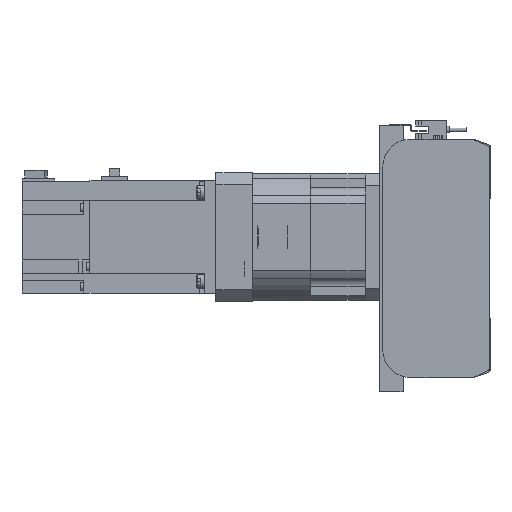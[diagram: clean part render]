
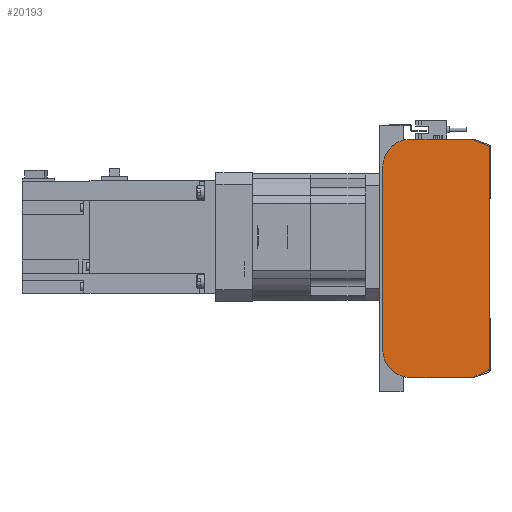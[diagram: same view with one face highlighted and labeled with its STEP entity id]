
A CAD part, left-side view. The second image highlights one B-rep face of the part: STEP entity #20193.
In plain terms, the highlighted planar face has unit normal (-1, 0, 0).
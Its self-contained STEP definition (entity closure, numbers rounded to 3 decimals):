
#1453=CIRCLE('',#22125,2.);
#1454=CIRCLE('',#22128,2.);
#1455=CIRCLE('',#22131,20.);
#1456=CIRCLE('',#22134,20.);
#5882=ORIENTED_EDGE('',*,*,#9455,.F.);
#5883=ORIENTED_EDGE('',*,*,#9533,.F.);
#5884=ORIENTED_EDGE('',*,*,#9531,.F.);
#5885=ORIENTED_EDGE('',*,*,#9529,.F.);
#5886=ORIENTED_EDGE('',*,*,#9272,.F.);
#5887=ORIENTED_EDGE('',*,*,#9528,.F.);
#5888=ORIENTED_EDGE('',*,*,#9526,.F.);
#5889=ORIENTED_EDGE('',*,*,#9524,.F.);
#5890=ORIENTED_EDGE('',*,*,#9522,.F.);
#5891=ORIENTED_EDGE('',*,*,#9520,.F.);
#9272=EDGE_CURVE('',#11454,#11455,#13192,.T.);
#9455=EDGE_CURVE('',#11526,#11527,#13306,.T.);
#9520=EDGE_CURVE('',#11527,#11568,#13351,.T.);
#9522=EDGE_CURVE('',#11568,#11569,#1453,.T.);
#9524=EDGE_CURVE('',#11569,#11570,#13354,.T.);
#9526=EDGE_CURVE('',#11570,#11571,#1454,.T.);
#9528=EDGE_CURVE('',#11571,#11454,#13357,.T.);
#9529=EDGE_CURVE('',#11455,#11572,#1455,.T.);
#9531=EDGE_CURVE('',#11572,#11573,#13359,.T.);
#9533=EDGE_CURVE('',#11573,#11526,#1456,.T.);
#11454=VERTEX_POINT('',#33662);
#11455=VERTEX_POINT('',#33664);
#11526=VERTEX_POINT('',#33970);
#11527=VERTEX_POINT('',#33972);
#11568=VERTEX_POINT('',#34102);
#11569=VERTEX_POINT('',#34106);
#11570=VERTEX_POINT('',#34110);
#11571=VERTEX_POINT('',#34114);
#11572=VERTEX_POINT('',#34120);
#11573=VERTEX_POINT('',#34124);
#13192=LINE('',#33663,#14957);
#13306=LINE('',#33971,#15071);
#13351=LINE('',#34101,#15116);
#13354=LINE('',#34109,#15119);
#13357=LINE('',#34117,#15122);
#13359=LINE('',#34123,#15124);
#14957=VECTOR('',#26871,1000.);
#15071=VECTOR('',#27229,1000.);
#15116=VECTOR('',#27362,1000.);
#15119=VECTOR('',#27371,1000.);
#15122=VECTOR('',#27380,1000.);
#15124=VECTOR('',#27388,1000.);
#16608=EDGE_LOOP('',(#5882,#5883,#5884,#5885,#5886,#5887,#5888,#5889,#5890,
#5891));
#18249=FACE_BOUND('',#16608,.T.);
#19142=PLANE('',#22136);
#20193=ADVANCED_FACE('',(#18249),#19142,.F.);
#22125=AXIS2_PLACEMENT_3D('',#34105,#27366,#27367);
#22128=AXIS2_PLACEMENT_3D('',#34113,#27375,#27376);
#22131=AXIS2_PLACEMENT_3D('',#34119,#27383,#27384);
#22134=AXIS2_PLACEMENT_3D('',#34127,#27392,#27393);
#22136=AXIS2_PLACEMENT_3D('',#34129,#27396,#27397);
#26871=DIRECTION('',(0.,1.,0.));
#27229=DIRECTION('',(0.,-1.,0.));
#27362=DIRECTION('',(0.,-0.913,-0.408));
#27366=DIRECTION('',(1.,0.,0.));
#27367=DIRECTION('',(0.,0.,-1.));
#27371=DIRECTION('',(0.,0.,-1.));
#27375=DIRECTION('',(1.,0.,0.));
#27376=DIRECTION('',(0.,0.,-1.));
#27380=DIRECTION('',(0.,0.913,-0.408));
#27383=DIRECTION('',(1.,0.,0.));
#27384=DIRECTION('',(0.,0.,-1.));
#27388=DIRECTION('',(0.,0.,1.));
#27392=DIRECTION('',(1.,0.,0.));
#27393=DIRECTION('',(0.,0.,-1.));
#27396=DIRECTION('',(1.,0.,0.));
#27397=DIRECTION('',(0.,0.,-1.));
#33662=CARTESIAN_POINT('',(0.,12.33,-85.));
#33663=CARTESIAN_POINT('',(0.,12.33,-85.));
#33664=CARTESIAN_POINT('',(0.,56.5,-85.));
#33970=CARTESIAN_POINT('',(0.,56.5,85.));
#33971=CARTESIAN_POINT('',(0.,56.5,85.));
#33972=CARTESIAN_POINT('',(0.,12.33,85.));
#34101=CARTESIAN_POINT('',(0.,12.33,85.));
#34102=CARTESIAN_POINT('',(0.,1.684,80.239));
#34105=CARTESIAN_POINT('',(0.,2.5,78.413));
#34106=CARTESIAN_POINT('',(0.,0.5,78.413));
#34109=CARTESIAN_POINT('',(0.,0.5,78.413));
#34110=CARTESIAN_POINT('',(0.,0.5,-78.413));
#34113=CARTESIAN_POINT('',(0.,2.5,-78.413));
#34114=CARTESIAN_POINT('',(0.,1.684,-80.239));
#34117=CARTESIAN_POINT('',(0.,1.684,-80.239));
#34119=CARTESIAN_POINT('',(0.,56.5,-65.));
#34120=CARTESIAN_POINT('',(0.,76.5,-65.));
#34123=CARTESIAN_POINT('',(0.,76.5,-65.));
#34124=CARTESIAN_POINT('',(0.,76.5,65.));
#34127=CARTESIAN_POINT('',(0.,56.5,65.));
#34129=CARTESIAN_POINT('',(0.,2.5,78.413));
